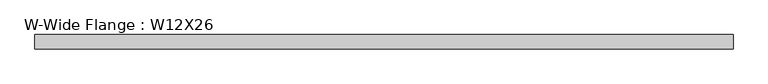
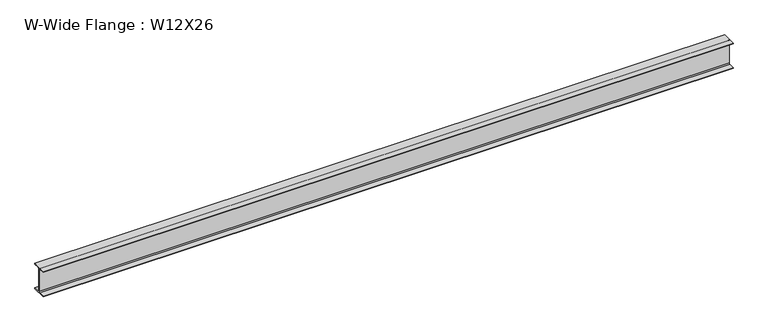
"""IFC4 building model written with IfcOpenShell, lengths in millimetres: beam geometry, W-Wide Flange : W12X26."""

from ifc_helpers import new_model, si_unit, point, frame, frame_2d, origin, place, context, project, spatial, polyline, circle_curve, trimmed, segment, composite_curve, outline, extrude, source, transform, mapped, element, save


def w_wide_flange_w12x26_fd16299b(model_context):
    return source(origin(), model_context, "Body", "SweptSolid", [
        extrude(outline(composite_curve([segment(polyline([(82.55, -146.05), (82.55, -155.575), (-82.55, -155.575), (-82.55, -146.05), (-15.875, -146.05)]), True, "CONTINUOUS"), segment(trimmed(circle_curve(frame_2d((-15.875, -133.35)), 12.7), [point((-15.875, -146.05))], [point((-3.175, -133.35))], True, "CARTESIAN"), True, "CONTINUOUS"), segment(polyline([(-3.175, -133.35), (-3.175, 133.35)]), True, "CONTINUOUS"), segment(trimmed(circle_curve(frame_2d((-15.875, 133.35)), 12.7), [point((-3.175, 133.35))], [point((-15.875, 146.05))], True, "CARTESIAN"), True, "CONTINUOUS"), segment(polyline([(-15.875, 146.05), (-82.55, 146.05), (-82.55, 155.575), (82.55, 155.575), (82.55, 146.05), (15.875, 146.05)]), True, "CONTINUOUS"), segment(trimmed(circle_curve(frame_2d((15.875, 133.35)), 12.7), [point((15.875, 146.05))], [point((3.175, 133.35))], True, "CARTESIAN"), True, "CONTINUOUS"), segment(polyline([(3.175, 133.35), (3.175, -133.35)]), True, "CONTINUOUS"), segment(trimmed(circle_curve(frame_2d((15.875, -133.35)), 12.7), [point((3.175, -133.35))], [point((15.875, -146.05))], True, "CARTESIAN"), True, "CONTINUOUS"), segment(polyline([(15.875, -146.05), (82.55, -146.05)]), True, "CONTINUOUS")], self_intersect=False)), frame((-4000.5, 0.0, 0.0), z_axis=(1.0, 0.0, 0.0), x_axis=(0.0, 1.0, 0.0)), (0.0, 0.0, 1.0), 8001.0),
    ])


if __name__ == "__main__":
    model = new_model("IFC4")
    model_context = context("Model", 3, world=origin())
    ifc_project = project(units=[si_unit("LENGTHUNIT", "METRE", prefix="MILLI")], contexts=[model_context])
    site = spatial("IfcSite", under=ifc_project)
    building = spatial("IfcBuilding", under=site)
    placement = place(None, origin())
    w_wide_flange_w12x26_shape = w_wide_flange_w12x26_fd16299b(model_context)
    element("IfcBeam", 1, ObjectType="W-Wide Flange : W12X26", at=placement, inside=building, context=model_context, shape_type="MappedRepresentation", body=[
        mapped(w_wide_flange_w12x26_shape, transform((0.0, 0.0, 0.0), x_axis=(1.0, 0.0, 0.0), y_axis=(0.0, 1.0, 0.0), z_axis=(0.0, 0.0, 1.0))),
    ])
    save(model, "model.ifc")
